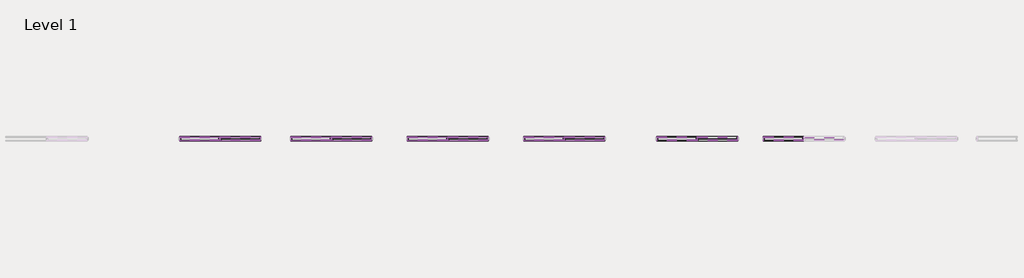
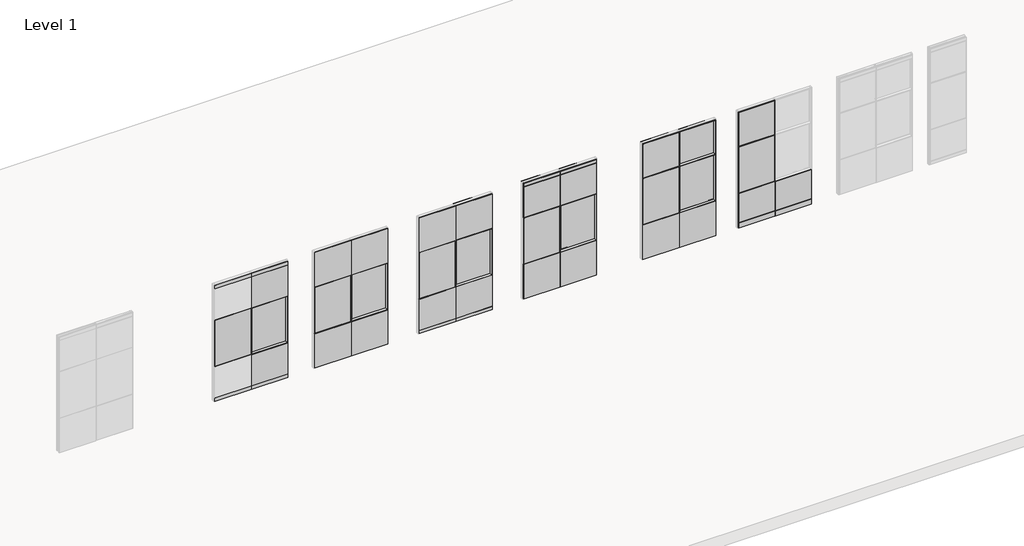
# One storey, part 11 of 22: 107 proxies.
"""IFC4 building model written with IfcOpenShell, lengths in millimetres."""

from ifc_helpers import new_model, si_unit, origin, place, context, project, spatial, transform, mapped, element, save
from components import fascia_teknion_ceiling_and_base_fpb1_0bfeef01, fascia_teknion_ceiling_and_base_fpb1_c09701a2, fascia_teknion_ceiling_and_base_fpb1_836afdf3, fascia_teknion_ceiling_and_base_fpb1_2ed09321, frame_teknion_horizontal_rail_5872ae1a, glass_fascia_6f81bcf7, glass_fascia_75a64c95, level_ii_d7c51a2e, level_ii_6986000c, panel_fascia_teknion_level_i_3c7f3a23, panel_fascia_teknion_level_i_3efb392c, panel_fascia_teknion_level_iii_5cb2406b, panel_fascia_teknion_level_iii_b597021d, panel_fascia_teknion_mid_glass_level_i_6372ec43, panel_fascia_teknion_mid_glass_level_i_aef44225, panel_fascia_teknion_mid_glass_level_i_3173a81b, panel_fascia_teknion_mid_glass_level_i_dc0ea009, working_wall_monolithic_level_i_ddf61f7f, working_wall_monolithic_level_i_0fd3c68e, panel_fascia_teknion_mid_glass_level_i_f6f85d3a, panel_fascia_teknion_mid_glass_level_iii_33d6d773, panel_fascia_teknion_mid_glass_level_iii_d39c1b17

model = new_model("IFC4")

# Units and contexts
model_context = context("Model", 3, world=origin())
ifc_project = project(units=[si_unit("LENGTHUNIT", "METRE", prefix="MILLI")], contexts=[model_context])

# Site, building, storey
site = spatial("IfcSite", under=ifc_project)
building = spatial("IfcBuilding", under=site)
storey = spatial("IfcBuildingStorey", under=building, Name="Level 1", Elevation=0.0)

# Proxies
placement = place(None, origin())
fascia_teknion_ceiling_and_base_fpb1_shape = fascia_teknion_ceiling_and_base_fpb1_0bfeef01(model_context)
element("IfcBuildingElementProxy", 1, Name="Fascia-Teknion-Ceiling_and_Base : FPB1", ObjectType="Fascia-Teknion-Ceiling_and_Base : FPB1", at=placement, inside=storey, context=model_context, shape_type="MappedRepresentation", body=[
    mapped(fascia_teknion_ceiling_and_base_fpb1_shape, transform((-10904.901085, 1762.344815, 15.875), x_axis=(1.0, 0.0, 0.0), y_axis=(0.0, 1.0, 0.0), z_axis=(0.0, 0.0, 1.0))),
])
element("IfcBuildingElementProxy", 2, Name="Fascia-Teknion-Ceiling_and_Base : FPB1", ObjectType="Fascia-Teknion-Ceiling_and_Base : FPB1", at=placement, inside=storey, context=model_context, shape_type="MappedRepresentation", body=[
    mapped(fascia_teknion_ceiling_and_base_fpb1_shape, transform((-10004.4909288, 1762.344815, 15.875), x_axis=(1.0, 0.0, 0.0), y_axis=(0.0, 1.0, 0.0), z_axis=(0.0, 0.0, 1.0))),
])
fascia_teknion_ceiling_and_base_fpb1_2_shape = fascia_teknion_ceiling_and_base_fpb1_c09701a2(model_context)
element("IfcBuildingElementProxy", 3, Name="Fascia-Teknion-Ceiling_and_Base : FPB1", ObjectType="Fascia-Teknion-Ceiling_and_Base : FPB1", at=placement, inside=storey, context=model_context, shape_type="MappedRepresentation", body=[
    mapped(fascia_teknion_ceiling_and_base_fpb1_2_shape, transform((-10904.901085, 1862.357315, 15.875), x_axis=(1.0, 0.0, 0.0), y_axis=(0.0, 1.0, 0.0), z_axis=(0.0, 0.0, 1.0))),
])
element("IfcBuildingElementProxy", 4, Name="Fascia-Teknion-Ceiling_and_Base : FPB1", ObjectType="Fascia-Teknion-Ceiling_and_Base : FPB1", at=placement, inside=storey, context=model_context, shape_type="MappedRepresentation", body=[
    mapped(fascia_teknion_ceiling_and_base_fpb1_2_shape, transform((-10004.4909288, 1862.357315, 15.875), x_axis=(1.0, 0.0, 0.0), y_axis=(0.0, 1.0, 0.0), z_axis=(0.0, 0.0, 1.0))),
])
fascia_teknion_ceiling_and_base_fpb1_3_shape = fascia_teknion_ceiling_and_base_fpb1_836afdf3(model_context)
element("IfcBuildingElementProxy", 5, Name="Fascia-Teknion-Ceiling_and_Base : FPB1", ObjectType="Fascia-Teknion-Ceiling_and_Base : FPB1", at=placement, inside=storey, context=model_context, shape_type="MappedRepresentation", body=[
    mapped(fascia_teknion_ceiling_and_base_fpb1_3_shape, transform((-23828.6184902, 1762.344815, 15.875), x_axis=(1.0, 0.0, 0.0), y_axis=(0.0, 1.0, 0.0), z_axis=(0.0, 0.0, 1.0))),
])
element("IfcBuildingElementProxy", 6, Name="Fascia-Teknion-Ceiling_and_Base : FPB1", ObjectType="Fascia-Teknion-Ceiling_and_Base : FPB1", at=placement, inside=storey, context=model_context, shape_type="MappedRepresentation", body=[
    mapped(fascia_teknion_ceiling_and_base_fpb1_3_shape, transform((-18786.7184902, 1762.344815, 15.875), x_axis=(1.0, 0.0, 0.0), y_axis=(0.0, 1.0, 0.0), z_axis=(0.0, 0.0, 1.0))),
])
element("IfcBuildingElementProxy", 7, Name="Fascia-Teknion-Ceiling_and_Base : FPB1", ObjectType="Fascia-Teknion-Ceiling_and_Base : FPB1", at=placement, inside=storey, context=model_context, shape_type="MappedRepresentation", body=[
    mapped(fascia_teknion_ceiling_and_base_fpb1_3_shape, transform((-22928.208334, 1762.344815, 15.875), x_axis=(1.0, 0.0, 0.0), y_axis=(0.0, 1.0, 0.0), z_axis=(0.0, 0.0, 1.0))),
])
element("IfcBuildingElementProxy", 8, Name="Fascia-Teknion-Ceiling_and_Base : FPB1", ObjectType="Fascia-Teknion-Ceiling_and_Base : FPB1", at=placement, inside=storey, context=model_context, shape_type="MappedRepresentation", body=[
    mapped(fascia_teknion_ceiling_and_base_fpb1_3_shape, transform((-17886.308334, 1762.344815, 15.875), x_axis=(1.0, 0.0, 0.0), y_axis=(0.0, 1.0, 0.0), z_axis=(0.0, 0.0, 1.0))),
])
fascia_teknion_ceiling_and_base_fpb1_4_shape = fascia_teknion_ceiling_and_base_fpb1_2ed09321(model_context)
element("IfcBuildingElementProxy", 9, Name="Fascia-Teknion-Ceiling_and_Base : FPB1", ObjectType="Fascia-Teknion-Ceiling_and_Base : FPB1", at=placement, inside=storey, context=model_context, shape_type="MappedRepresentation", body=[
    mapped(fascia_teknion_ceiling_and_base_fpb1_4_shape, transform((-23828.6184902, 1862.357315, 15.875), x_axis=(1.0, 0.0, 0.0), y_axis=(0.0, 1.0, 0.0), z_axis=(0.0, 0.0, 1.0))),
])
element("IfcBuildingElementProxy", 10, Name="Fascia-Teknion-Ceiling_and_Base : FPB1", ObjectType="Fascia-Teknion-Ceiling_and_Base : FPB1", at=placement, inside=storey, context=model_context, shape_type="MappedRepresentation", body=[
    mapped(fascia_teknion_ceiling_and_base_fpb1_4_shape, transform((-18786.7184902, 1862.357315, 15.875), x_axis=(1.0, 0.0, 0.0), y_axis=(0.0, 1.0, 0.0), z_axis=(0.0, 0.0, 1.0))),
])
element("IfcBuildingElementProxy", 11, Name="Fascia-Teknion-Ceiling_and_Base : FPB1", ObjectType="Fascia-Teknion-Ceiling_and_Base : FPB1", at=placement, inside=storey, context=model_context, shape_type="MappedRepresentation", body=[
    mapped(fascia_teknion_ceiling_and_base_fpb1_4_shape, transform((-22928.208334, 1862.357315, 15.875), x_axis=(1.0, 0.0, 0.0), y_axis=(0.0, 1.0, 0.0), z_axis=(0.0, 0.0, 1.0))),
])
element("IfcBuildingElementProxy", 12, Name="Fascia-Teknion-Ceiling_and_Base : FPB1", ObjectType="Fascia-Teknion-Ceiling_and_Base : FPB1", at=placement, inside=storey, context=model_context, shape_type="MappedRepresentation", body=[
    mapped(fascia_teknion_ceiling_and_base_fpb1_4_shape, transform((-17886.308334, 1862.357315, 15.875), x_axis=(1.0, 0.0, 0.0), y_axis=(0.0, 1.0, 0.0), z_axis=(0.0, 0.0, 1.0))),
])
element("IfcBuildingElementProxy", 13, Name="Fascia-Teknion-Ceiling_and_Base : FPC", ObjectType="Fascia-Teknion-Ceiling_and_Base : FPC", at=placement, inside=storey, context=model_context, shape_type="MappedRepresentation", body=[
    mapped(fascia_teknion_ceiling_and_base_fpb1_3_shape, transform((-23828.6184902, 1762.344815, 2950.845), x_axis=(1.0, 0.0, 0.0), y_axis=(0.0, 1.0, 0.0), z_axis=(0.0, 0.0, 1.0))),
])
element("IfcBuildingElementProxy", 14, Name="Fascia-Teknion-Ceiling_and_Base : FPC", ObjectType="Fascia-Teknion-Ceiling_and_Base : FPC", at=placement, inside=storey, context=model_context, shape_type="MappedRepresentation", body=[
    mapped(fascia_teknion_ceiling_and_base_fpb1_3_shape, transform((-16208.6184902, 1762.344815, 2950.845), x_axis=(1.0, 0.0, 0.0), y_axis=(0.0, 1.0, 0.0), z_axis=(0.0, 0.0, 1.0))),
])
element("IfcBuildingElementProxy", 15, Name="Fascia-Teknion-Ceiling_and_Base : FPC", ObjectType="Fascia-Teknion-Ceiling_and_Base : FPC", at=placement, inside=storey, context=model_context, shape_type="MappedRepresentation", body=[
    mapped(fascia_teknion_ceiling_and_base_fpb1_3_shape, transform((-22928.208334, 1762.344815, 2950.845), x_axis=(1.0, 0.0, 0.0), y_axis=(0.0, 1.0, 0.0), z_axis=(0.0, 0.0, 1.0))),
])
element("IfcBuildingElementProxy", 16, Name="Fascia-Teknion-Ceiling_and_Base : FPC", ObjectType="Fascia-Teknion-Ceiling_and_Base : FPC", at=placement, inside=storey, context=model_context, shape_type="MappedRepresentation", body=[
    mapped(fascia_teknion_ceiling_and_base_fpb1_3_shape, transform((-15308.208334, 1762.344815, 2950.845), x_axis=(1.0, 0.0, 0.0), y_axis=(0.0, 1.0, 0.0), z_axis=(0.0, 0.0, 1.0))),
])
element("IfcBuildingElementProxy", 17, Name="Fascia-Teknion-Ceiling_and_Base : FPC", ObjectType="Fascia-Teknion-Ceiling_and_Base : FPC", at=placement, inside=storey, context=model_context, shape_type="MappedRepresentation", body=[
    mapped(fascia_teknion_ceiling_and_base_fpb1_4_shape, transform((-23828.6184902, 1862.357315, 2950.845), x_axis=(1.0, 0.0, 0.0), y_axis=(0.0, 1.0, 0.0), z_axis=(0.0, 0.0, 1.0))),
])
element("IfcBuildingElementProxy", 18, Name="Fascia-Teknion-Ceiling_and_Base : FPC", ObjectType="Fascia-Teknion-Ceiling_and_Base : FPC", at=placement, inside=storey, context=model_context, shape_type="MappedRepresentation", body=[
    mapped(fascia_teknion_ceiling_and_base_fpb1_4_shape, transform((-16208.6184902, 1862.357315, 2950.845), x_axis=(1.0, 0.0, 0.0), y_axis=(0.0, 1.0, 0.0), z_axis=(0.0, 0.0, 1.0))),
])
element("IfcBuildingElementProxy", 19, Name="Fascia-Teknion-Ceiling_and_Base : FPC", ObjectType="Fascia-Teknion-Ceiling_and_Base : FPC", at=placement, inside=storey, context=model_context, shape_type="MappedRepresentation", body=[
    mapped(fascia_teknion_ceiling_and_base_fpb1_4_shape, transform((-22928.208334, 1862.357315, 2950.845), x_axis=(1.0, 0.0, 0.0), y_axis=(0.0, 1.0, 0.0), z_axis=(0.0, 0.0, 1.0))),
])
element("IfcBuildingElementProxy", 20, Name="Fascia-Teknion-Ceiling_and_Base : FPC", ObjectType="Fascia-Teknion-Ceiling_and_Base : FPC", at=placement, inside=storey, context=model_context, shape_type="MappedRepresentation", body=[
    mapped(fascia_teknion_ceiling_and_base_fpb1_4_shape, transform((-15308.208334, 1862.357315, 2950.845), x_axis=(1.0, 0.0, 0.0), y_axis=(0.0, 1.0, 0.0), z_axis=(0.0, 0.0, 1.0))),
])
frame_teknion_horizontal_rail_shape = frame_teknion_horizontal_rail_5872ae1a(model_context)
element("IfcBuildingElementProxy", 21, Name="Frame-Teknion-Horizontal_Rail : FPKK", ObjectType="Frame-Teknion-Horizontal_Rail : FPKK", at=placement, inside=storey, context=model_context, shape_type="MappedRepresentation", body=[
    mapped(frame_teknion_horizontal_rail_shape, transform((-23828.6184902, 1812.351065, 917.575), x_axis=(1.0, 0.0, 0.0), y_axis=(0.0, 1.0, 0.0), z_axis=(0.0, 0.0, 1.0))),
])
element("IfcBuildingElementProxy", 22, Name="Frame-Teknion-Horizontal_Rail : FPKK", ObjectType="Frame-Teknion-Horizontal_Rail : FPKK", at=placement, inside=storey, context=model_context, shape_type="MappedRepresentation", body=[
    mapped(frame_teknion_horizontal_rail_shape, transform((-23828.6184902, 1812.351065, 2136.775), x_axis=(1.0, 0.0, 0.0), y_axis=(0.0, 1.0, 0.0), z_axis=(0.0, 0.0, 1.0))),
])
element("IfcBuildingElementProxy", 23, Name="Frame-Teknion-Horizontal_Rail : FPKK", ObjectType="Frame-Teknion-Horizontal_Rail : FPKK", at=placement, inside=storey, context=model_context, shape_type="MappedRepresentation", body=[
    mapped(frame_teknion_horizontal_rail_shape, transform((-21364.8184902, 1812.351065, 917.575), x_axis=(1.0, 0.0, 0.0), y_axis=(0.0, 1.0, 0.0), z_axis=(0.0, 0.0, 1.0))),
])
element("IfcBuildingElementProxy", 24, Name="Frame-Teknion-Horizontal_Rail : FPKK", ObjectType="Frame-Teknion-Horizontal_Rail : FPKK", at=placement, inside=storey, context=model_context, shape_type="MappedRepresentation", body=[
    mapped(frame_teknion_horizontal_rail_shape, transform((-21364.8184902, 1812.351065, 2136.775), x_axis=(1.0, 0.0, 0.0), y_axis=(0.0, 1.0, 0.0), z_axis=(0.0, 0.0, 1.0))),
])
element("IfcBuildingElementProxy", 25, Name="Frame-Teknion-Horizontal_Rail : FPKK", ObjectType="Frame-Teknion-Horizontal_Rail : FPKK", at=placement, inside=storey, context=model_context, shape_type="MappedRepresentation", body=[
    mapped(frame_teknion_horizontal_rail_shape, transform((-18786.7184902, 1812.351065, 917.575), x_axis=(1.0, 0.0, 0.0), y_axis=(0.0, 1.0, 0.0), z_axis=(0.0, 0.0, 1.0))),
])
element("IfcBuildingElementProxy", 26, Name="Frame-Teknion-Horizontal_Rail : FPKK", ObjectType="Frame-Teknion-Horizontal_Rail : FPKK", at=placement, inside=storey, context=model_context, shape_type="MappedRepresentation", body=[
    mapped(frame_teknion_horizontal_rail_shape, transform((-18786.7184902, 1812.351065, 2136.775), x_axis=(1.0, 0.0, 0.0), y_axis=(0.0, 1.0, 0.0), z_axis=(0.0, 0.0, 1.0))),
])
element("IfcBuildingElementProxy", 27, Name="Frame-Teknion-Horizontal_Rail : FPKK", ObjectType="Frame-Teknion-Horizontal_Rail : FPKK", at=placement, inside=storey, context=model_context, shape_type="MappedRepresentation", body=[
    mapped(frame_teknion_horizontal_rail_shape, transform((-16208.6184902, 1812.351065, 917.575), x_axis=(1.0, 0.0, 0.0), y_axis=(0.0, 1.0, 0.0), z_axis=(0.0, 0.0, 1.0))),
])
element("IfcBuildingElementProxy", 28, Name="Frame-Teknion-Horizontal_Rail : FPKK", ObjectType="Frame-Teknion-Horizontal_Rail : FPKK", at=placement, inside=storey, context=model_context, shape_type="MappedRepresentation", body=[
    mapped(frame_teknion_horizontal_rail_shape, transform((-16208.6184902, 1812.351065, 2136.775), x_axis=(1.0, 0.0, 0.0), y_axis=(0.0, 1.0, 0.0), z_axis=(0.0, 0.0, 1.0))),
])
element("IfcBuildingElementProxy", 29, Name="Frame-Teknion-Horizontal_Rail : FPKK", ObjectType="Frame-Teknion-Horizontal_Rail : FPKK", at=placement, inside=storey, context=model_context, shape_type="MappedRepresentation", body=[
    mapped(frame_teknion_horizontal_rail_shape, transform((-16208.6184902, 1812.351065, 2947.543), x_axis=(1.0, 0.0, 0.0), y_axis=(0.0, 1.0, 0.0), z_axis=(0.0, 0.0, 1.0))),
])
element("IfcBuildingElementProxy", 30, Name="Frame-Teknion-Horizontal_Rail : FPKK", ObjectType="Frame-Teknion-Horizontal_Rail : FPKK", at=placement, inside=storey, context=model_context, shape_type="MappedRepresentation", body=[
    mapped(frame_teknion_horizontal_rail_shape, transform((-22928.208334, 1812.351065, 917.575), x_axis=(1.0, 0.0, 0.0), y_axis=(0.0, 1.0, 0.0), z_axis=(0.0, 0.0, 1.0))),
])
element("IfcBuildingElementProxy", 31, Name="Frame-Teknion-Horizontal_Rail : FPKK", ObjectType="Frame-Teknion-Horizontal_Rail : FPKK", at=placement, inside=storey, context=model_context, shape_type="MappedRepresentation", body=[
    mapped(frame_teknion_horizontal_rail_shape, transform((-22928.208334, 1812.351065, 2136.775), x_axis=(1.0, 0.0, 0.0), y_axis=(0.0, 1.0, 0.0), z_axis=(0.0, 0.0, 1.0))),
])
element("IfcBuildingElementProxy", 32, Name="Frame-Teknion-Horizontal_Rail : FPKK", ObjectType="Frame-Teknion-Horizontal_Rail : FPKK", at=placement, inside=storey, context=model_context, shape_type="MappedRepresentation", body=[
    mapped(frame_teknion_horizontal_rail_shape, transform((-20464.408334, 1812.351065, 917.575), x_axis=(1.0, 0.0, 0.0), y_axis=(0.0, 1.0, 0.0), z_axis=(0.0, 0.0, 1.0))),
])
element("IfcBuildingElementProxy", 33, Name="Frame-Teknion-Horizontal_Rail : FPKK", ObjectType="Frame-Teknion-Horizontal_Rail : FPKK", at=placement, inside=storey, context=model_context, shape_type="MappedRepresentation", body=[
    mapped(frame_teknion_horizontal_rail_shape, transform((-20464.408334, 1812.351065, 2136.775), x_axis=(1.0, 0.0, 0.0), y_axis=(0.0, 1.0, 0.0), z_axis=(0.0, 0.0, 1.0))),
])
element("IfcBuildingElementProxy", 34, Name="Frame-Teknion-Horizontal_Rail : FPKK", ObjectType="Frame-Teknion-Horizontal_Rail : FPKK", at=placement, inside=storey, context=model_context, shape_type="MappedRepresentation", body=[
    mapped(frame_teknion_horizontal_rail_shape, transform((-17886.308334, 1812.351065, 917.575), x_axis=(1.0, 0.0, 0.0), y_axis=(0.0, 1.0, 0.0), z_axis=(0.0, 0.0, 1.0))),
])
element("IfcBuildingElementProxy", 35, Name="Frame-Teknion-Horizontal_Rail : FPKK", ObjectType="Frame-Teknion-Horizontal_Rail : FPKK", at=placement, inside=storey, context=model_context, shape_type="MappedRepresentation", body=[
    mapped(frame_teknion_horizontal_rail_shape, transform((-17886.308334, 1812.351065, 2136.775), x_axis=(1.0, 0.0, 0.0), y_axis=(0.0, 1.0, 0.0), z_axis=(0.0, 0.0, 1.0))),
])
element("IfcBuildingElementProxy", 36, Name="Frame-Teknion-Horizontal_Rail : FPKK", ObjectType="Frame-Teknion-Horizontal_Rail : FPKK", at=placement, inside=storey, context=model_context, shape_type="MappedRepresentation", body=[
    mapped(frame_teknion_horizontal_rail_shape, transform((-15308.208334, 1812.351065, 917.575), x_axis=(1.0, 0.0, 0.0), y_axis=(0.0, 1.0, 0.0), z_axis=(0.0, 0.0, 1.0))),
])
element("IfcBuildingElementProxy", 37, Name="Frame-Teknion-Horizontal_Rail : FPKK", ObjectType="Frame-Teknion-Horizontal_Rail : FPKK", at=placement, inside=storey, context=model_context, shape_type="MappedRepresentation", body=[
    mapped(frame_teknion_horizontal_rail_shape, transform((-15308.208334, 1812.351065, 2136.775), x_axis=(1.0, 0.0, 0.0), y_axis=(0.0, 1.0, 0.0), z_axis=(0.0, 0.0, 1.0))),
])
element("IfcBuildingElementProxy", 38, Name="Frame-Teknion-Horizontal_Rail : FPKK", ObjectType="Frame-Teknion-Horizontal_Rail : FPKK", at=placement, inside=storey, context=model_context, shape_type="MappedRepresentation", body=[
    mapped(frame_teknion_horizontal_rail_shape, transform((-15308.208334, 1812.351065, 2947.543), x_axis=(1.0, 0.0, 0.0), y_axis=(0.0, 1.0, 0.0), z_axis=(0.0, 0.0, 1.0))),
])
element("IfcBuildingElementProxy", 39, Name="Frame-Teknion-Horizontal_Rail : FPKK", ObjectType="Frame-Teknion-Horizontal_Rail : FPKK", at=placement, inside=storey, context=model_context, shape_type="MappedRepresentation", body=[
    mapped(frame_teknion_horizontal_rail_shape, transform((-18786.7184902, 1812.351065, 100.33), x_axis=(1.0, 0.0, 0.0), y_axis=(0.0, 1.0, 0.0), z_axis=(0.0, 0.0, 1.0))),
])
element("IfcBuildingElementProxy", 40, Name="Frame-Teknion-Horizontal_Rail : FPKK", ObjectType="Frame-Teknion-Horizontal_Rail : FPKK", at=placement, inside=storey, context=model_context, shape_type="MappedRepresentation", body=[
    mapped(frame_teknion_horizontal_rail_shape, transform((-17886.308334, 1812.351065, 100.33), x_axis=(1.0, 0.0, 0.0), y_axis=(0.0, 1.0, 0.0), z_axis=(0.0, 0.0, 1.0))),
])
element("IfcBuildingElementProxy", 41, Name="Frame-Teknion-Horizontal_Rail : FPKK", ObjectType="Frame-Teknion-Horizontal_Rail : FPKK", at=placement, inside=storey, context=model_context, shape_type="MappedRepresentation", body=[
    mapped(frame_teknion_horizontal_rail_shape, transform((-13267.101085, 1812.351065, 917.575), x_axis=(1.0, 0.0, 0.0), y_axis=(0.0, 1.0, 0.0), z_axis=(0.0, 0.0, 1.0))),
])
element("IfcBuildingElementProxy", 42, Name="Frame-Teknion-Horizontal_Rail : FPKK", ObjectType="Frame-Teknion-Horizontal_Rail : FPKK", at=placement, inside=storey, context=model_context, shape_type="MappedRepresentation", body=[
    mapped(frame_teknion_horizontal_rail_shape, transform((-13267.101085, 1812.351065, 2136.775), x_axis=(1.0, 0.0, 0.0), y_axis=(0.0, 1.0, 0.0), z_axis=(0.0, 0.0, 1.0))),
])
element("IfcBuildingElementProxy", 43, Name="Frame-Teknion-Horizontal_Rail : FPKK", ObjectType="Frame-Teknion-Horizontal_Rail : FPKK", at=placement, inside=storey, context=model_context, shape_type="MappedRepresentation", body=[
    mapped(frame_teknion_horizontal_rail_shape, transform((-10904.901085, 1812.351065, 100.457), x_axis=(1.0, 0.0, 0.0), y_axis=(0.0, 1.0, 0.0), z_axis=(0.0, 0.0, 1.0))),
])
element("IfcBuildingElementProxy", 44, Name="Frame-Teknion-Horizontal_Rail : FPKK", ObjectType="Frame-Teknion-Horizontal_Rail : FPKK", at=placement, inside=storey, context=model_context, shape_type="MappedRepresentation", body=[
    mapped(frame_teknion_horizontal_rail_shape, transform((-10904.901085, 1812.351065, 917.575), x_axis=(1.0, 0.0, 0.0), y_axis=(0.0, 1.0, 0.0), z_axis=(0.0, 0.0, 1.0))),
])
element("IfcBuildingElementProxy", 45, Name="Frame-Teknion-Horizontal_Rail : FPKK", ObjectType="Frame-Teknion-Horizontal_Rail : FPKK", at=placement, inside=storey, context=model_context, shape_type="MappedRepresentation", body=[
    mapped(frame_teknion_horizontal_rail_shape, transform((-10904.901085, 1812.351065, 2136.775), x_axis=(1.0, 0.0, 0.0), y_axis=(0.0, 1.0, 0.0), z_axis=(0.0, 0.0, 1.0))),
])
element("IfcBuildingElementProxy", 46, Name="Frame-Teknion-Horizontal_Rail : FPKK", ObjectType="Frame-Teknion-Horizontal_Rail : FPKK", at=placement, inside=storey, context=model_context, shape_type="MappedRepresentation", body=[
    mapped(frame_teknion_horizontal_rail_shape, transform((-10904.901085, 1812.351065, 151.257), x_axis=(1.0, 0.0, 0.0), y_axis=(0.0, 1.0, 0.0), z_axis=(0.0, 0.0, 1.0))),
])
element("IfcBuildingElementProxy", 47, Name="Frame-Teknion-Horizontal_Rail : FPKK", ObjectType="Frame-Teknion-Horizontal_Rail : FPKK", at=placement, inside=storey, context=model_context, shape_type="MappedRepresentation", body=[
    mapped(frame_teknion_horizontal_rail_shape, transform((-12366.6909288, 1812.351065, 917.575), x_axis=(1.0, 0.0, 0.0), y_axis=(0.0, 1.0, 0.0), z_axis=(0.0, 0.0, 1.0))),
])
element("IfcBuildingElementProxy", 48, Name="Frame-Teknion-Horizontal_Rail : FPKK", ObjectType="Frame-Teknion-Horizontal_Rail : FPKK", at=placement, inside=storey, context=model_context, shape_type="MappedRepresentation", body=[
    mapped(frame_teknion_horizontal_rail_shape, transform((-12366.6909288, 1812.351065, 2136.775), x_axis=(1.0, 0.0, 0.0), y_axis=(0.0, 1.0, 0.0), z_axis=(0.0, 0.0, 1.0))),
])
element("IfcBuildingElementProxy", 49, Name="Frame-Teknion-Horizontal_Rail : FPKK", ObjectType="Frame-Teknion-Horizontal_Rail : FPKK", at=placement, inside=storey, context=model_context, shape_type="MappedRepresentation", body=[
    mapped(frame_teknion_horizontal_rail_shape, transform((-10004.4909288, 1812.351065, 100.457), x_axis=(1.0, 0.0, 0.0), y_axis=(0.0, 1.0, 0.0), z_axis=(0.0, 0.0, 1.0))),
])
element("IfcBuildingElementProxy", 50, Name="Frame-Teknion-Horizontal_Rail : FPKK", ObjectType="Frame-Teknion-Horizontal_Rail : FPKK", at=placement, inside=storey, context=model_context, shape_type="MappedRepresentation", body=[
    mapped(frame_teknion_horizontal_rail_shape, transform((-10004.4909288, 1812.351065, 917.575), x_axis=(1.0, 0.0, 0.0), y_axis=(0.0, 1.0, 0.0), z_axis=(0.0, 0.0, 1.0))),
])
element("IfcBuildingElementProxy", 51, Name="Frame-Teknion-Horizontal_Rail : FPKK", ObjectType="Frame-Teknion-Horizontal_Rail : FPKK", at=placement, inside=storey, context=model_context, shape_type="MappedRepresentation", body=[
    mapped(frame_teknion_horizontal_rail_shape, transform((-10004.4909288, 1812.351065, 2136.775), x_axis=(1.0, 0.0, 0.0), y_axis=(0.0, 1.0, 0.0), z_axis=(0.0, 0.0, 1.0))),
])
element("IfcBuildingElementProxy", 52, Name="Frame-Teknion-Horizontal_Rail : FPKK", ObjectType="Frame-Teknion-Horizontal_Rail : FPKK", at=placement, inside=storey, context=model_context, shape_type="MappedRepresentation", body=[
    mapped(frame_teknion_horizontal_rail_shape, transform((-22928.208334, 1812.351065, 97.282), x_axis=(1.0, 0.0, 0.0), y_axis=(0.0, 1.0, 0.0), z_axis=(0.0, 0.0, 1.0))),
])
element("IfcBuildingElementProxy", 53, Name="Frame-Teknion-Horizontal_Rail : FPKK", ObjectType="Frame-Teknion-Horizontal_Rail : FPKK", at=placement, inside=storey, context=model_context, shape_type="MappedRepresentation", body=[
    mapped(frame_teknion_horizontal_rail_shape, transform((-22928.208334, 1812.351065, 2947.67), x_axis=(1.0, 0.0, 0.0), y_axis=(0.0, 1.0, 0.0), z_axis=(0.0, 0.0, 1.0))),
])
element("IfcBuildingElementProxy", 54, Name="Frame-Teknion-Horizontal_Rail : FPKK", ObjectType="Frame-Teknion-Horizontal_Rail : FPKK", at=placement, inside=storey, context=model_context, shape_type="MappedRepresentation", body=[
    mapped(frame_teknion_horizontal_rail_shape, transform((-23828.6184902, 1812.351065, 97.282), x_axis=(1.0, 0.0, 0.0), y_axis=(0.0, 1.0, 0.0), z_axis=(0.0, 0.0, 1.0))),
])
element("IfcBuildingElementProxy", 55, Name="Frame-Teknion-Horizontal_Rail : FPKK", ObjectType="Frame-Teknion-Horizontal_Rail : FPKK", at=placement, inside=storey, context=model_context, shape_type="MappedRepresentation", body=[
    mapped(frame_teknion_horizontal_rail_shape, transform((-23828.6184902, 1812.351065, 2947.67), x_axis=(1.0, 0.0, 0.0), y_axis=(0.0, 1.0, 0.0), z_axis=(0.0, 0.0, 1.0))),
])
glass_fascia_shape = glass_fascia_6f81bcf7(model_context)
element("IfcBuildingElementProxy", 56, Name="Panel-Fascia-Teknion-Altos-Glass : Glass Fascia", ObjectType="Panel-Fascia-Teknion-Altos-Glass : Glass Fascia", at=placement, inside=storey, context=model_context, shape_type="MappedRepresentation", body=[
    mapped(glass_fascia_shape, transform((-13267.101085, 1812.351065, 2136.775), x_axis=(1.0, 0.0, 0.0), y_axis=(0.0, 1.0, 0.0), z_axis=(0.0, 0.0, 1.0))),
])
element("IfcBuildingElementProxy", 57, Name="Panel-Fascia-Teknion-Altos-Glass : Glass Fascia", ObjectType="Panel-Fascia-Teknion-Altos-Glass : Glass Fascia", at=placement, inside=storey, context=model_context, shape_type="MappedRepresentation", body=[
    mapped(glass_fascia_shape, transform((-10904.901085, 1812.351065, 2136.775), x_axis=(1.0, 0.0, 0.0), y_axis=(0.0, 1.0, 0.0), z_axis=(0.0, 0.0, 1.0))),
])
glass_fascia_2_shape = glass_fascia_75a64c95(model_context)
element("IfcBuildingElementProxy", 58, Name="Panel-Fascia-Teknion-Altos-Glass : Glass Fascia", ObjectType="Panel-Fascia-Teknion-Altos-Glass : Glass Fascia", at=placement, inside=storey, context=model_context, shape_type="MappedRepresentation", body=[
    mapped(glass_fascia_2_shape, transform((-12366.6909288, 1812.351065, 2136.775), x_axis=(1.0, 0.0, 0.0), y_axis=(0.0, 1.0, 0.0), z_axis=(0.0, 0.0, 1.0))),
])
level_ii_shape = level_ii_d7c51a2e(model_context)
element("IfcBuildingElementProxy", 59, Name="Panel-Fascia-Teknion-Altos-Mid_Glass : Level II", ObjectType="Panel-Fascia-Teknion-Altos-Mid_Glass : Level II", at=placement, inside=storey, context=model_context, shape_type="MappedRepresentation", body=[
    mapped(level_ii_shape, transform((-23828.6184902, 1812.351065, 917.575), x_axis=(1.0, 0.0, 0.0), y_axis=(0.0, 1.0, 0.0), z_axis=(0.0, 0.0, 1.0))),
])
element("IfcBuildingElementProxy", 60, Name="Panel-Fascia-Teknion-Altos-Mid_Glass : Level II", ObjectType="Panel-Fascia-Teknion-Altos-Mid_Glass : Level II", at=placement, inside=storey, context=model_context, shape_type="MappedRepresentation", body=[
    mapped(level_ii_shape, transform((-21364.8184902, 1812.351065, 917.575), x_axis=(1.0, 0.0, 0.0), y_axis=(0.0, 1.0, 0.0), z_axis=(0.0, 0.0, 1.0))),
])
element("IfcBuildingElementProxy", 61, Name="Panel-Fascia-Teknion-Altos-Mid_Glass : Level II", ObjectType="Panel-Fascia-Teknion-Altos-Mid_Glass : Level II", at=placement, inside=storey, context=model_context, shape_type="MappedRepresentation", body=[
    mapped(level_ii_shape, transform((-18786.7184902, 1812.351065, 917.575), x_axis=(1.0, 0.0, 0.0), y_axis=(0.0, 1.0, 0.0), z_axis=(0.0, 0.0, 1.0))),
])
element("IfcBuildingElementProxy", 62, Name="Panel-Fascia-Teknion-Altos-Mid_Glass : Level II", ObjectType="Panel-Fascia-Teknion-Altos-Mid_Glass : Level II", at=placement, inside=storey, context=model_context, shape_type="MappedRepresentation", body=[
    mapped(level_ii_shape, transform((-16208.6184902, 1812.351065, 917.575), x_axis=(1.0, 0.0, 0.0), y_axis=(0.0, 1.0, 0.0), z_axis=(0.0, 0.0, 1.0))),
])
element("IfcBuildingElementProxy", 63, Name="Panel-Fascia-Teknion-Altos-Mid_Glass : Level II", ObjectType="Panel-Fascia-Teknion-Altos-Mid_Glass : Level II", at=placement, inside=storey, context=model_context, shape_type="MappedRepresentation", body=[
    mapped(level_ii_shape, transform((-13267.101085, 1812.351065, 917.575), x_axis=(1.0, 0.0, 0.0), y_axis=(0.0, 1.0, 0.0), z_axis=(0.0, 0.0, 1.0))),
])
element("IfcBuildingElementProxy", 64, Name="Panel-Fascia-Teknion-Altos-Mid_Glass : Level II", ObjectType="Panel-Fascia-Teknion-Altos-Mid_Glass : Level II", at=placement, inside=storey, context=model_context, shape_type="MappedRepresentation", body=[
    mapped(level_ii_shape, transform((-10904.901085, 1812.351065, 917.575), x_axis=(1.0, 0.0, 0.0), y_axis=(0.0, 1.0, 0.0), z_axis=(0.0, 0.0, 1.0))),
])
level_ii_2_shape = level_ii_6986000c(model_context)
element("IfcBuildingElementProxy", 65, Name="Panel-Fascia-Teknion-Altos-Mid_Glass : Level II", ObjectType="Panel-Fascia-Teknion-Altos-Mid_Glass : Level II", at=placement, inside=storey, context=model_context, shape_type="MappedRepresentation", body=[
    mapped(level_ii_2_shape, transform((-22928.208334, 1812.351065, 917.575), x_axis=(1.0, 0.0, 0.0), y_axis=(0.0, 1.0, 0.0), z_axis=(0.0, 0.0, 1.0))),
])
element("IfcBuildingElementProxy", 66, Name="Panel-Fascia-Teknion-Altos-Mid_Glass : Level II", ObjectType="Panel-Fascia-Teknion-Altos-Mid_Glass : Level II", at=placement, inside=storey, context=model_context, shape_type="MappedRepresentation", body=[
    mapped(level_ii_2_shape, transform((-20464.408334, 1812.351065, 917.575), x_axis=(1.0, 0.0, 0.0), y_axis=(0.0, 1.0, 0.0), z_axis=(0.0, 0.0, 1.0))),
])
element("IfcBuildingElementProxy", 67, Name="Panel-Fascia-Teknion-Altos-Mid_Glass : Level II", ObjectType="Panel-Fascia-Teknion-Altos-Mid_Glass : Level II", at=placement, inside=storey, context=model_context, shape_type="MappedRepresentation", body=[
    mapped(level_ii_2_shape, transform((-17886.308334, 1812.351065, 917.575), x_axis=(1.0, 0.0, 0.0), y_axis=(0.0, 1.0, 0.0), z_axis=(0.0, 0.0, 1.0))),
])
element("IfcBuildingElementProxy", 68, Name="Panel-Fascia-Teknion-Altos-Mid_Glass : Level II", ObjectType="Panel-Fascia-Teknion-Altos-Mid_Glass : Level II", at=placement, inside=storey, context=model_context, shape_type="MappedRepresentation", body=[
    mapped(level_ii_2_shape, transform((-15308.208334, 1812.351065, 917.575), x_axis=(1.0, 0.0, 0.0), y_axis=(0.0, 1.0, 0.0), z_axis=(0.0, 0.0, 1.0))),
])
element("IfcBuildingElementProxy", 69, Name="Panel-Fascia-Teknion-Altos-Mid_Glass : Level II", ObjectType="Panel-Fascia-Teknion-Altos-Mid_Glass : Level II", at=placement, inside=storey, context=model_context, shape_type="MappedRepresentation", body=[
    mapped(level_ii_2_shape, transform((-12366.6909288, 1812.351065, 917.575), x_axis=(1.0, 0.0, 0.0), y_axis=(0.0, 1.0, 0.0), z_axis=(0.0, 0.0, 1.0))),
])
panel_fascia_teknion_level_i_shape = panel_fascia_teknion_level_i_3c7f3a23(model_context)
element("IfcBuildingElementProxy", 70, Name="Panel-Fascia-Teknion : Level I", ObjectType="Panel-Fascia-Teknion : Level I", at=placement, inside=storey, context=model_context, shape_type="MappedRepresentation", body=[
    mapped(panel_fascia_teknion_level_i_shape, transform((-22928.208334, 1771.869815, 100.457), x_axis=(1.0, 0.0, 0.0), y_axis=(0.0, 1.0, 0.0), z_axis=(0.0, 0.0, 1.0))),
])
panel_fascia_teknion_level_i_2_shape = panel_fascia_teknion_level_i_3efb392c(model_context)
element("IfcBuildingElementProxy", 71, Name="Panel-Fascia-Teknion : Level I", ObjectType="Panel-Fascia-Teknion : Level I", at=placement, inside=storey, context=model_context, shape_type="MappedRepresentation", body=[
    mapped(panel_fascia_teknion_level_i_2_shape, transform((-23828.6184902, 1852.832315, 100.457), x_axis=(1.0, 0.0, 0.0), y_axis=(0.0, 1.0, 0.0), z_axis=(0.0, 0.0, 1.0))),
])
element("IfcBuildingElementProxy", 72, Name="Panel-Fascia-Teknion : Level I", ObjectType="Panel-Fascia-Teknion : Level I", at=placement, inside=storey, context=model_context, shape_type="MappedRepresentation", body=[
    mapped(panel_fascia_teknion_level_i_2_shape, transform((-22928.208334, 1852.832315, 100.457), x_axis=(1.0, 0.0, 0.0), y_axis=(0.0, 1.0, 0.0), z_axis=(0.0, 0.0, 1.0))),
])
panel_fascia_teknion_level_iii_shape = panel_fascia_teknion_level_iii_5cb2406b(model_context)
element("IfcBuildingElementProxy", 73, Name="Panel-Fascia-Teknion : Level III", ObjectType="Panel-Fascia-Teknion : Level III", at=placement, inside=storey, context=model_context, shape_type="MappedRepresentation", body=[
    mapped(panel_fascia_teknion_level_iii_shape, transform((-22928.208334, 1771.869815, 2136.775), x_axis=(1.0, 0.0, 0.0), y_axis=(0.0, 1.0, 0.0), z_axis=(0.0, 0.0, 1.0))),
])
panel_fascia_teknion_level_iii_2_shape = panel_fascia_teknion_level_iii_b597021d(model_context)
element("IfcBuildingElementProxy", 74, Name="Panel-Fascia-Teknion : Level III", ObjectType="Panel-Fascia-Teknion : Level III", at=placement, inside=storey, context=model_context, shape_type="MappedRepresentation", body=[
    mapped(panel_fascia_teknion_level_iii_2_shape, transform((-23828.6184902, 1852.832315, 2136.775), x_axis=(1.0, 0.0, 0.0), y_axis=(0.0, 1.0, 0.0), z_axis=(0.0, 0.0, 1.0))),
])
element("IfcBuildingElementProxy", 75, Name="Panel-Fascia-Teknion : Level III", ObjectType="Panel-Fascia-Teknion : Level III", at=placement, inside=storey, context=model_context, shape_type="MappedRepresentation", body=[
    mapped(panel_fascia_teknion_level_iii_2_shape, transform((-22928.208334, 1852.832315, 2136.775), x_axis=(1.0, 0.0, 0.0), y_axis=(0.0, 1.0, 0.0), z_axis=(0.0, 0.0, 1.0))),
])
panel_fascia_teknion_mid_glass_level_i_shape = panel_fascia_teknion_mid_glass_level_i_6372ec43(model_context)
element("IfcBuildingElementProxy", 76, Name="Panel-Fascia-Teknion-Mid_Glass : Level I", ObjectType="Panel-Fascia-Teknion-Mid_Glass : Level I", at=placement, inside=storey, context=model_context, shape_type="MappedRepresentation", body=[
    mapped(panel_fascia_teknion_mid_glass_level_i_shape, transform((-21364.8184902, 1771.869815, 15.875), x_axis=(1.0, 0.0, 0.0), y_axis=(0.0, 1.0, 0.0), z_axis=(0.0, 0.0, 1.0))),
])
element("IfcBuildingElementProxy", 77, Name="Panel-Fascia-Teknion-Mid_Glass : Level I", ObjectType="Panel-Fascia-Teknion-Mid_Glass : Level I", at=placement, inside=storey, context=model_context, shape_type="MappedRepresentation", body=[
    mapped(panel_fascia_teknion_mid_glass_level_i_shape, transform((-20464.408334, 1771.869815, 15.875), x_axis=(1.0, 0.0, 0.0), y_axis=(0.0, 1.0, 0.0), z_axis=(0.0, 0.0, 1.0))),
])
panel_fascia_teknion_mid_glass_level_i_2_shape = panel_fascia_teknion_mid_glass_level_i_aef44225(model_context)
element("IfcBuildingElementProxy", 78, Name="Panel-Fascia-Teknion-Mid_Glass : Level I", ObjectType="Panel-Fascia-Teknion-Mid_Glass : Level I", at=placement, inside=storey, context=model_context, shape_type="MappedRepresentation", body=[
    mapped(panel_fascia_teknion_mid_glass_level_i_2_shape, transform((-21364.8184902, 1852.832315, 12.7), x_axis=(1.0, 0.0, 0.0), y_axis=(0.0, 1.0, 0.0), z_axis=(0.0, 0.0, 1.0))),
])
element("IfcBuildingElementProxy", 79, Name="Panel-Fascia-Teknion-Mid_Glass : Level I", ObjectType="Panel-Fascia-Teknion-Mid_Glass : Level I", at=placement, inside=storey, context=model_context, shape_type="MappedRepresentation", body=[
    mapped(panel_fascia_teknion_mid_glass_level_i_2_shape, transform((-16208.6184902, 1852.832315, 12.7), x_axis=(1.0, 0.0, 0.0), y_axis=(0.0, 1.0, 0.0), z_axis=(0.0, 0.0, 1.0))),
])
element("IfcBuildingElementProxy", 80, Name="Panel-Fascia-Teknion-Mid_Glass : Level I", ObjectType="Panel-Fascia-Teknion-Mid_Glass : Level I", at=placement, inside=storey, context=model_context, shape_type="MappedRepresentation", body=[
    mapped(panel_fascia_teknion_mid_glass_level_i_2_shape, transform((-20464.408334, 1852.832315, 12.7), x_axis=(1.0, 0.0, 0.0), y_axis=(0.0, 1.0, 0.0), z_axis=(0.0, 0.0, 1.0))),
])
element("IfcBuildingElementProxy", 81, Name="Panel-Fascia-Teknion-Mid_Glass : Level I", ObjectType="Panel-Fascia-Teknion-Mid_Glass : Level I", at=placement, inside=storey, context=model_context, shape_type="MappedRepresentation", body=[
    mapped(panel_fascia_teknion_mid_glass_level_i_2_shape, transform((-15308.208334, 1852.832315, 12.7), x_axis=(1.0, 0.0, 0.0), y_axis=(0.0, 1.0, 0.0), z_axis=(0.0, 0.0, 1.0))),
])
element("IfcBuildingElementProxy", 82, Name="Panel-Fascia-Teknion-Mid_Glass : Level I", ObjectType="Panel-Fascia-Teknion-Mid_Glass : Level I", at=placement, inside=storey, context=model_context, shape_type="MappedRepresentation", body=[
    mapped(panel_fascia_teknion_level_i_shape, transform((-18786.7184902, 1771.869815, 100.457), x_axis=(1.0, 0.0, 0.0), y_axis=(0.0, 1.0, 0.0), z_axis=(0.0, 0.0, 1.0))),
])
element("IfcBuildingElementProxy", 83, Name="Panel-Fascia-Teknion-Mid_Glass : Level I", ObjectType="Panel-Fascia-Teknion-Mid_Glass : Level I", at=placement, inside=storey, context=model_context, shape_type="MappedRepresentation", body=[
    mapped(panel_fascia_teknion_level_i_shape, transform((-17886.308334, 1771.869815, 100.457), x_axis=(1.0, 0.0, 0.0), y_axis=(0.0, 1.0, 0.0), z_axis=(0.0, 0.0, 1.0))),
])
element("IfcBuildingElementProxy", 84, Name="Panel-Fascia-Teknion-Mid_Glass : Level I", ObjectType="Panel-Fascia-Teknion-Mid_Glass : Level I", at=placement, inside=storey, context=model_context, shape_type="MappedRepresentation", body=[
    mapped(panel_fascia_teknion_level_i_2_shape, transform((-18786.7184902, 1852.832315, 100.457), x_axis=(1.0, 0.0, 0.0), y_axis=(0.0, 1.0, 0.0), z_axis=(0.0, 0.0, 1.0))),
])
element("IfcBuildingElementProxy", 85, Name="Panel-Fascia-Teknion-Mid_Glass : Level I", ObjectType="Panel-Fascia-Teknion-Mid_Glass : Level I", at=placement, inside=storey, context=model_context, shape_type="MappedRepresentation", body=[
    mapped(panel_fascia_teknion_level_i_2_shape, transform((-17886.308334, 1852.832315, 100.457), x_axis=(1.0, 0.0, 0.0), y_axis=(0.0, 1.0, 0.0), z_axis=(0.0, 0.0, 1.0))),
])
panel_fascia_teknion_mid_glass_level_i_3_shape = panel_fascia_teknion_mid_glass_level_i_3173a81b(model_context)
element("IfcBuildingElementProxy", 86, Name="Panel-Fascia-Teknion-Mid_Glass : Level I", ObjectType="Panel-Fascia-Teknion-Mid_Glass : Level I", at=placement, inside=storey, context=model_context, shape_type="MappedRepresentation", body=[
    mapped(panel_fascia_teknion_mid_glass_level_i_3_shape, transform((-16208.6184902, 1771.869815, 12.7), x_axis=(1.0, 0.0, 0.0), y_axis=(0.0, 1.0, 0.0), z_axis=(0.0, 0.0, 1.0))),
])
element("IfcBuildingElementProxy", 87, Name="Panel-Fascia-Teknion-Mid_Glass : Level I", ObjectType="Panel-Fascia-Teknion-Mid_Glass : Level I", at=placement, inside=storey, context=model_context, shape_type="MappedRepresentation", body=[
    mapped(panel_fascia_teknion_mid_glass_level_i_3_shape, transform((-15308.208334, 1771.869815, 12.7), x_axis=(1.0, 0.0, 0.0), y_axis=(0.0, 1.0, 0.0), z_axis=(0.0, 0.0, 1.0))),
])
panel_fascia_teknion_mid_glass_level_i_4_shape = panel_fascia_teknion_mid_glass_level_i_dc0ea009(model_context)
element("IfcBuildingElementProxy", 88, Name="Panel-Fascia-Teknion-Mid_Glass : Level I", ObjectType="Panel-Fascia-Teknion-Mid_Glass : Level I", at=placement, inside=storey, context=model_context, shape_type="MappedRepresentation", body=[
    mapped(panel_fascia_teknion_mid_glass_level_i_4_shape, transform((-13267.101085, 1771.869815, 15.875), x_axis=(1.0, 0.0, 0.0), y_axis=(0.0, 1.0, 0.0), z_axis=(0.0, 0.0, 1.0))),
])
element("IfcBuildingElementProxy", 89, Name="Panel-Fascia-Teknion-Mid_Glass : Level I", ObjectType="Panel-Fascia-Teknion-Mid_Glass : Level I", at=placement, inside=storey, context=model_context, shape_type="MappedRepresentation", body=[
    mapped(panel_fascia_teknion_mid_glass_level_i_4_shape, transform((-12366.6909288, 1771.869815, 15.875), x_axis=(1.0, 0.0, 0.0), y_axis=(0.0, 1.0, 0.0), z_axis=(0.0, 0.0, 1.0))),
])
working_wall_monolithic_level_i_shape = working_wall_monolithic_level_i_ddf61f7f(model_context)
element("IfcBuildingElementProxy", 90, Name="Panel-Fascia-Teknion-Mid_Glass : Level I", ObjectType="Panel-Fascia-Teknion-Mid_Glass : Level I", at=placement, inside=storey, context=model_context, shape_type="MappedRepresentation", body=[
    mapped(working_wall_monolithic_level_i_shape, transform((-13267.101085, 1852.832315, 12.7), x_axis=(1.0, 0.0, 0.0), y_axis=(0.0, 1.0, 0.0), z_axis=(0.0, 0.0, 1.0))),
])
element("IfcBuildingElementProxy", 91, Name="Panel-Fascia-Teknion-Mid_Glass : Level I", ObjectType="Panel-Fascia-Teknion-Mid_Glass : Level I", at=placement, inside=storey, context=model_context, shape_type="MappedRepresentation", body=[
    mapped(working_wall_monolithic_level_i_shape, transform((-12366.6909288, 1852.832315, 12.7), x_axis=(1.0, 0.0, 0.0), y_axis=(0.0, 1.0, 0.0), z_axis=(0.0, 0.0, 1.0))),
])
working_wall_monolithic_level_i_2_shape = working_wall_monolithic_level_i_0fd3c68e(model_context)
element("IfcBuildingElementProxy", 92, Name="Panel-Fascia-Teknion-Mid_Glass : Level I", ObjectType="Panel-Fascia-Teknion-Mid_Glass : Level I", at=placement, inside=storey, context=model_context, shape_type="MappedRepresentation", body=[
    mapped(working_wall_monolithic_level_i_2_shape, transform((-10904.901085, 1771.869815, 151.257), x_axis=(1.0, 0.0, 0.0), y_axis=(0.0, 1.0, 0.0), z_axis=(0.0, 0.0, 1.0))),
])
element("IfcBuildingElementProxy", 93, Name="Panel-Fascia-Teknion-Mid_Glass : Level I", ObjectType="Panel-Fascia-Teknion-Mid_Glass : Level I", at=placement, inside=storey, context=model_context, shape_type="MappedRepresentation", body=[
    mapped(working_wall_monolithic_level_i_2_shape, transform((-10004.4909288, 1771.869815, 151.257), x_axis=(1.0, 0.0, 0.0), y_axis=(0.0, 1.0, 0.0), z_axis=(0.0, 0.0, 1.0))),
])
panel_fascia_teknion_mid_glass_level_i_5_shape = panel_fascia_teknion_mid_glass_level_i_f6f85d3a(model_context)
element("IfcBuildingElementProxy", 94, Name="Panel-Fascia-Teknion-Mid_Glass : Level I", ObjectType="Panel-Fascia-Teknion-Mid_Glass : Level I", at=placement, inside=storey, context=model_context, shape_type="MappedRepresentation", body=[
    mapped(panel_fascia_teknion_mid_glass_level_i_5_shape, transform((-10904.901085, 1852.832315, 100.457), x_axis=(1.0, 0.0, 0.0), y_axis=(0.0, 1.0, 0.0), z_axis=(0.0, 0.0, 1.0))),
])
element("IfcBuildingElementProxy", 95, Name="Panel-Fascia-Teknion-Mid_Glass : Level I", ObjectType="Panel-Fascia-Teknion-Mid_Glass : Level I", at=placement, inside=storey, context=model_context, shape_type="MappedRepresentation", body=[
    mapped(panel_fascia_teknion_mid_glass_level_i_5_shape, transform((-10004.4909288, 1852.832315, 100.457), x_axis=(1.0, 0.0, 0.0), y_axis=(0.0, 1.0, 0.0), z_axis=(0.0, 0.0, 1.0))),
])
panel_fascia_teknion_mid_glass_level_iii_shape = panel_fascia_teknion_mid_glass_level_iii_33d6d773(model_context)
element("IfcBuildingElementProxy", 96, Name="Panel-Fascia-Teknion-Mid_Glass : Level III", ObjectType="Panel-Fascia-Teknion-Mid_Glass : Level III", at=placement, inside=storey, context=model_context, shape_type="MappedRepresentation", body=[
    mapped(panel_fascia_teknion_mid_glass_level_iii_shape, transform((-21364.8184902, 1771.869815, 2136.775), x_axis=(1.0, 0.0, 0.0), y_axis=(0.0, 1.0, 0.0), z_axis=(0.0, 0.0, 1.0))),
])
element("IfcBuildingElementProxy", 97, Name="Panel-Fascia-Teknion-Mid_Glass : Level III", ObjectType="Panel-Fascia-Teknion-Mid_Glass : Level III", at=placement, inside=storey, context=model_context, shape_type="MappedRepresentation", body=[
    mapped(panel_fascia_teknion_mid_glass_level_iii_shape, transform((-18786.7184902, 1771.869815, 2136.775), x_axis=(1.0, 0.0, 0.0), y_axis=(0.0, 1.0, 0.0), z_axis=(0.0, 0.0, 1.0))),
])
element("IfcBuildingElementProxy", 98, Name="Panel-Fascia-Teknion-Mid_Glass : Level III", ObjectType="Panel-Fascia-Teknion-Mid_Glass : Level III", at=placement, inside=storey, context=model_context, shape_type="MappedRepresentation", body=[
    mapped(panel_fascia_teknion_mid_glass_level_iii_shape, transform((-20464.408334, 1771.869815, 2136.775), x_axis=(1.0, 0.0, 0.0), y_axis=(0.0, 1.0, 0.0), z_axis=(0.0, 0.0, 1.0))),
])
element("IfcBuildingElementProxy", 99, Name="Panel-Fascia-Teknion-Mid_Glass : Level III", ObjectType="Panel-Fascia-Teknion-Mid_Glass : Level III", at=placement, inside=storey, context=model_context, shape_type="MappedRepresentation", body=[
    mapped(panel_fascia_teknion_mid_glass_level_iii_shape, transform((-17886.308334, 1771.869815, 2136.775), x_axis=(1.0, 0.0, 0.0), y_axis=(0.0, 1.0, 0.0), z_axis=(0.0, 0.0, 1.0))),
])
panel_fascia_teknion_mid_glass_level_iii_2_shape = panel_fascia_teknion_mid_glass_level_iii_d39c1b17(model_context)
element("IfcBuildingElementProxy", 100, Name="Panel-Fascia-Teknion-Mid_Glass : Level III", ObjectType="Panel-Fascia-Teknion-Mid_Glass : Level III", at=placement, inside=storey, context=model_context, shape_type="MappedRepresentation", body=[
    mapped(panel_fascia_teknion_mid_glass_level_iii_2_shape, transform((-21364.8184902, 1852.832315, 2136.775), x_axis=(1.0, 0.0, 0.0), y_axis=(0.0, 1.0, 0.0), z_axis=(0.0, 0.0, 1.0))),
])
element("IfcBuildingElementProxy", 101, Name="Panel-Fascia-Teknion-Mid_Glass : Level III", ObjectType="Panel-Fascia-Teknion-Mid_Glass : Level III", at=placement, inside=storey, context=model_context, shape_type="MappedRepresentation", body=[
    mapped(panel_fascia_teknion_mid_glass_level_iii_2_shape, transform((-18786.7184902, 1852.832315, 2136.775), x_axis=(1.0, 0.0, 0.0), y_axis=(0.0, 1.0, 0.0), z_axis=(0.0, 0.0, 1.0))),
])
element("IfcBuildingElementProxy", 102, Name="Panel-Fascia-Teknion-Mid_Glass : Level III", ObjectType="Panel-Fascia-Teknion-Mid_Glass : Level III", at=placement, inside=storey, context=model_context, shape_type="MappedRepresentation", body=[
    mapped(panel_fascia_teknion_mid_glass_level_iii_2_shape, transform((-20464.408334, 1852.832315, 2136.775), x_axis=(1.0, 0.0, 0.0), y_axis=(0.0, 1.0, 0.0), z_axis=(0.0, 0.0, 1.0))),
])
element("IfcBuildingElementProxy", 103, Name="Panel-Fascia-Teknion-Mid_Glass : Level III", ObjectType="Panel-Fascia-Teknion-Mid_Glass : Level III", at=placement, inside=storey, context=model_context, shape_type="MappedRepresentation", body=[
    mapped(panel_fascia_teknion_mid_glass_level_iii_2_shape, transform((-17886.308334, 1852.832315, 2136.775), x_axis=(1.0, 0.0, 0.0), y_axis=(0.0, 1.0, 0.0), z_axis=(0.0, 0.0, 1.0))),
])
element("IfcBuildingElementProxy", 104, Name="Panel-Fascia-Teknion-Mid_Glass : Level III", ObjectType="Panel-Fascia-Teknion-Mid_Glass : Level III", at=placement, inside=storey, context=model_context, shape_type="MappedRepresentation", body=[
    mapped(panel_fascia_teknion_level_iii_shape, transform((-16208.6184902, 1771.869815, 2136.775), x_axis=(1.0, 0.0, 0.0), y_axis=(0.0, 1.0, 0.0), z_axis=(0.0, 0.0, 1.0))),
])
element("IfcBuildingElementProxy", 105, Name="Panel-Fascia-Teknion-Mid_Glass : Level III", ObjectType="Panel-Fascia-Teknion-Mid_Glass : Level III", at=placement, inside=storey, context=model_context, shape_type="MappedRepresentation", body=[
    mapped(panel_fascia_teknion_level_iii_shape, transform((-15308.208334, 1771.869815, 2136.775), x_axis=(1.0, 0.0, 0.0), y_axis=(0.0, 1.0, 0.0), z_axis=(0.0, 0.0, 1.0))),
])
element("IfcBuildingElementProxy", 106, Name="Panel-Fascia-Teknion-Mid_Glass : Level III", ObjectType="Panel-Fascia-Teknion-Mid_Glass : Level III", at=placement, inside=storey, context=model_context, shape_type="MappedRepresentation", body=[
    mapped(panel_fascia_teknion_level_iii_2_shape, transform((-16208.6184902, 1852.832315, 2136.775), x_axis=(1.0, 0.0, 0.0), y_axis=(0.0, 1.0, 0.0), z_axis=(0.0, 0.0, 1.0))),
])
element("IfcBuildingElementProxy", 107, Name="Panel-Fascia-Teknion-Mid_Glass : Level III", ObjectType="Panel-Fascia-Teknion-Mid_Glass : Level III", at=placement, inside=storey, context=model_context, shape_type="MappedRepresentation", body=[
    mapped(panel_fascia_teknion_level_iii_2_shape, transform((-15308.208334, 1852.832315, 2136.775), x_axis=(1.0, 0.0, 0.0), y_axis=(0.0, 1.0, 0.0), z_axis=(0.0, 0.0, 1.0))),
])

save(model, "model.ifc")
